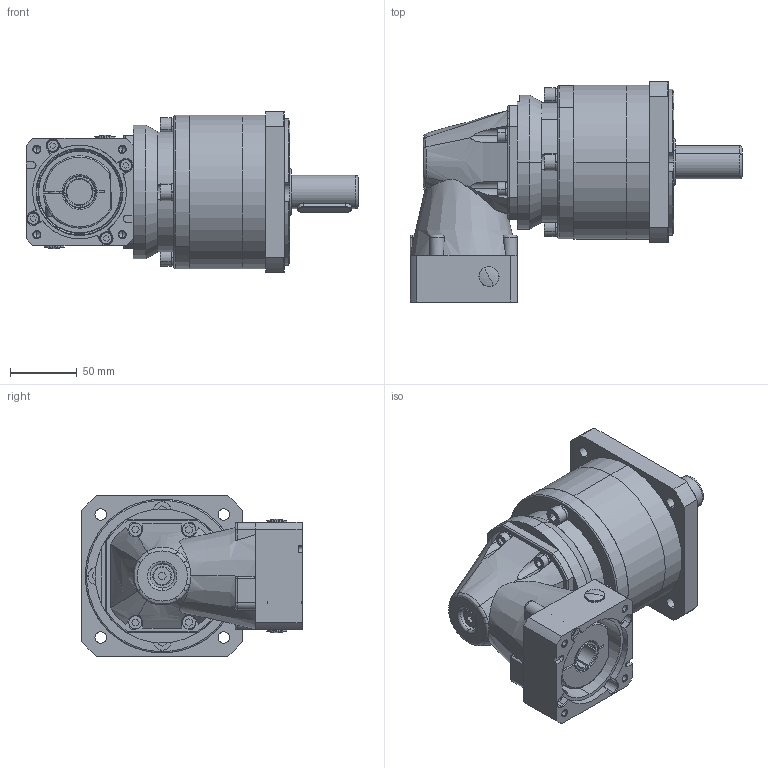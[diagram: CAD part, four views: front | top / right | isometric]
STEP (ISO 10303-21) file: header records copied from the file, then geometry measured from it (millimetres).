
FILE_DESCRIPTION (( 'STEP AP203' ), '1' );
FILE_NAME ('WPF115L2-i-P2-S2-19-40-70-90-M6.step', '2020-03-30T09:02:00', ( '个人用户' ), ( '微软中国' ), 'SwSTEP 2.0', 'SolidWorks 2018', '' );
FILE_SCHEMA (( 'CONFIG_CONTROL_DESIGN' ));
Length unit declared in the file: millimetre
Products named in the file (1): WPF115L2-i-P2-S2-19-40-70-90-M6
Bounding box: 248 x 164.5 x 120 mm (x, y, z)
Volume: 1219822.6 mm3; surface area: 325837.1 mm2
Topology: 45 solids, 45 shells, 1406 faces, 3318 edges, 2093 vertices
Faces by surface type: cylinder 518, plane 451, cone 189, torus 152, sphere 78, bspline 18
Entity records: 45380 total; most frequent: CARTESIAN_POINT 12179, DIRECTION 7353, ORIENTED_EDGE 6580, EDGE_CURVE 3290, AXIS2_PLACEMENT_3D 2993, VERTEX_POINT 2093, EDGE_LOOP 1635, CIRCLE 1604
